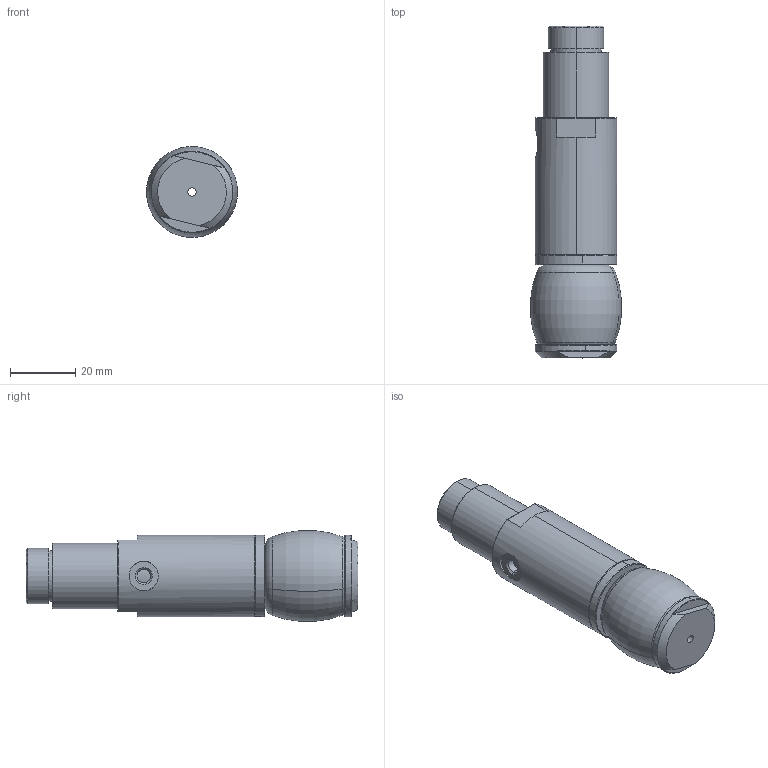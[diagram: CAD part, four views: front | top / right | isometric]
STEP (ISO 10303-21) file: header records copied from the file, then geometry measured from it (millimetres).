
FILE_DESCRIPTION (( 'STEP AP203' ), '1' );
FILE_NAME ('GBD25HD .STEP', '2025-03-13T01:18:04', ( 'Windows 蚚誧' ), ( 'Organization' ), 'SwSTEP 2.0', 'SolidWorks 2018', '' );
FILE_SCHEMA (( 'CONFIG_CONTROL_DESIGN' ));
Length unit declared in the file: millimetre
Products named in the file (1): GBD25HD 
Bounding box: 27.84 x 101.5 x 27.76 mm (x, y, z)
Volume: 43789.4 mm3; surface area: 10016.8 mm2
Topology: 1 solids, 2 shells, 86 faces, 194 edges, 119 vertices
Faces by surface type: cone 31, cylinder 29, plane 20, torus 6
Entity records: 2622 total; most frequent: CARTESIAN_POINT 554, DIRECTION 459, ORIENTED_EDGE 388, EDGE_CURVE 194, AXIS2_PLACEMENT_3D 194, VERTEX_POINT 119, CIRCLE 107, EDGE_LOOP 97
